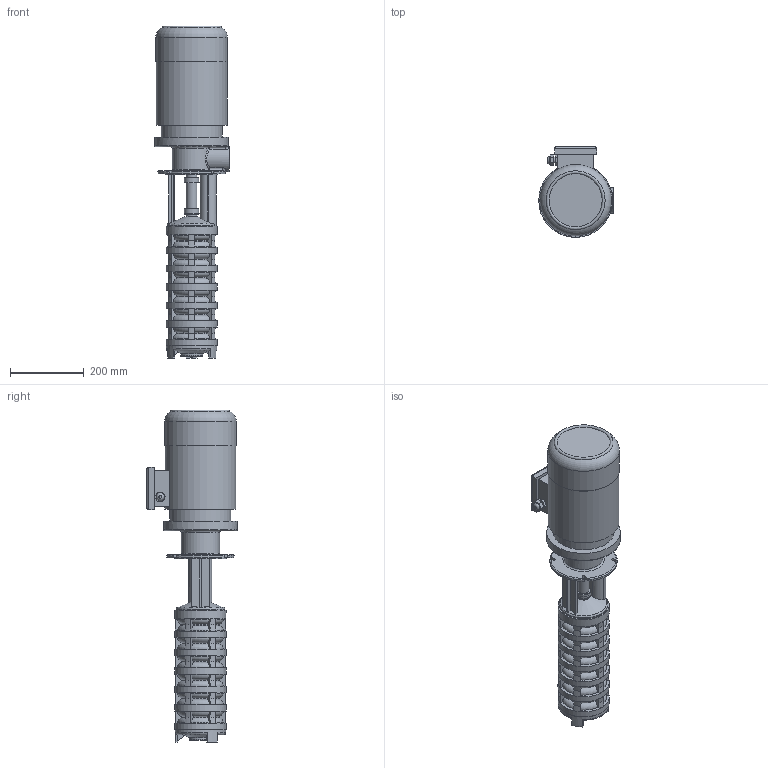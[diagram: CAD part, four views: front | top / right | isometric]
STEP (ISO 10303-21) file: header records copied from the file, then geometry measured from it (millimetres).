
FILE_DESCRIPTION(/* description */ ('Unknown'),/* implementation_level */ '2;1');
FILE_NAME(/* name */ 'gp7-500',/* time_stamp */ '2025-06-17T14:04:44+03:00',/* author */ ('Unknown'),/* organization */ ('Unknown'),/* preprocessor_version */ 'ST-DEVELOPER v16.7',/* originating_system */ 'DEX',/* authorisation */ $);
FILE_SCHEMA (('AUTOMOTIVE_DESIGN {1 0 10303 214 3 1 1}'));
Length unit declared in the file: millimetre
Products named in the file (1): gp7-500
Bounding box: 202 x 245.5 x 900.48 mm (x, y, z)
Volume: 15933260.9 mm3; surface area: 661423.4 mm2
Topology: 1 solids, 1 shells, 564 faces, 1528 edges, 997 vertices
Faces by surface type: plane 182, cylinder 108, cone 101, torus 89, bspline 84
Full cylindrical faces by diameter (mm): 17 x1, 21.5 x1, 29 x3, 33 x2, 35 x2, 39 x2, 40.5 x2, 45 x1, 47 x1, 60 x1, 137 x1, 139 x7, 140 x1, 165 x1, 192.353 x1, 194 x1, 200 x1
Entity records: 20327 total; most frequent: CARTESIAN_POINT 6610, ORIENTED_EDGE 2886, DIRECTION 2785, EDGE_CURVE 1443, AXIS2_PLACEMENT_3D 1068, VERTEX_POINT 975, EDGE_LOOP 662, FACE_BOUND 662
